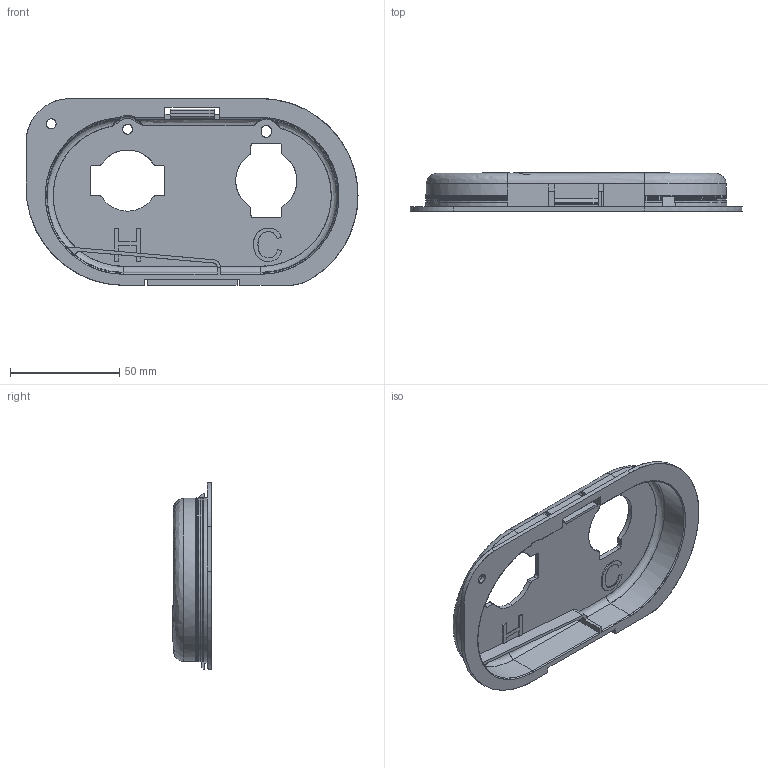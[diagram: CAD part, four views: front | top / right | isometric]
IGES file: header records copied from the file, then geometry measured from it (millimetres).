
Start section: Comment
Global section: file name: 148037203.igs; native system:  By UGS Corp.; preprocessor: XPlus GENERIC/IGES 3.0; author: Author; organization: Title; date: 20080207.152213; units: millimetre
Bounding box: 152 x 17.8 x 85.5 mm (x, y, z)
Surface area: 32327.4 mm2 (no closed solid volume)
Topology: 0 solids, 0 shells, 509 faces, 3184 edges, 3180 vertices
Faces by surface type: bspline 509
